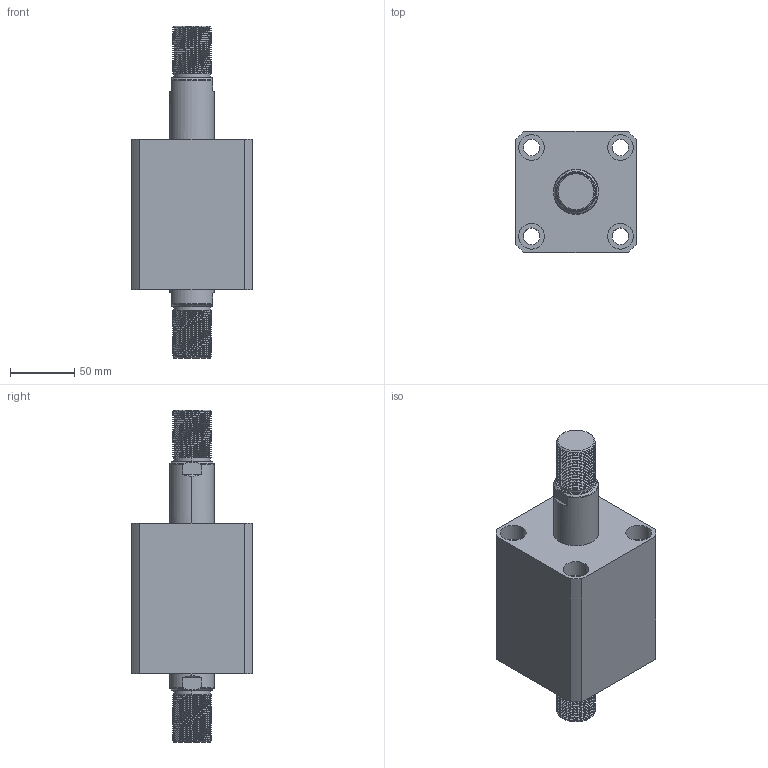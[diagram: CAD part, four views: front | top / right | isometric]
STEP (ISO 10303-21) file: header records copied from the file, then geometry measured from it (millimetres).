
FILE_DESCRIPTION (( 'STEP AP214' ), '1' );
FILE_NAME ('chtb-sw63x35w_asm.STEP', '2018-05-19T03:14:32', ( 'Windows' ), ( 'Microsoft' ), 'SwSTEP 2.0', 'SolidWorks 2015', '' );
FILE_SCHEMA (( 'AUTOMOTIVE_DESIGN' ));
Length unit declared in the file: millimetre
Products named in the file (4): CHTB-SW63X35WHSG; CHTB-SW63X35NBT; CHTB-63QG; chtb-sw63x35w_asm
Assembly tree (3 placements, depth 2):
  chtb-sw63x35w_asm
    CHTB-63QG
    CHTB-SW63X35NBT
    CHTB-SW63X35WHSG
Bounding box: 94 x 94 x 258 mm (x, y, z)
Volume: 973889.1 mm3; surface area: 161653 mm2
Topology: 3 solids, 3 shells, 296 faces, 841 edges, 569 vertices
Faces by surface type: cylinder 206, plane 46, bspline 16, cone 16, torus 12
Entity records: 27380 total; most frequent: CARTESIAN_POINT 20442, ORIENTED_EDGE 1674, DIRECTION 1166, EDGE_CURVE 837, VERTEX_POINT 569, AXIS2_PLACEMENT_3D 453, EDGE_LOOP 334, ADVANCED_FACE 296
